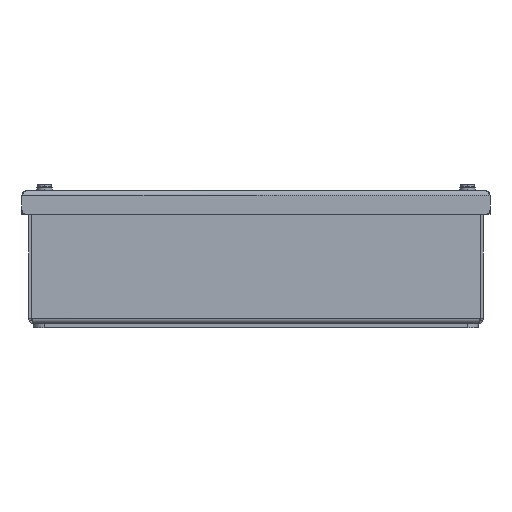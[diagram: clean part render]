
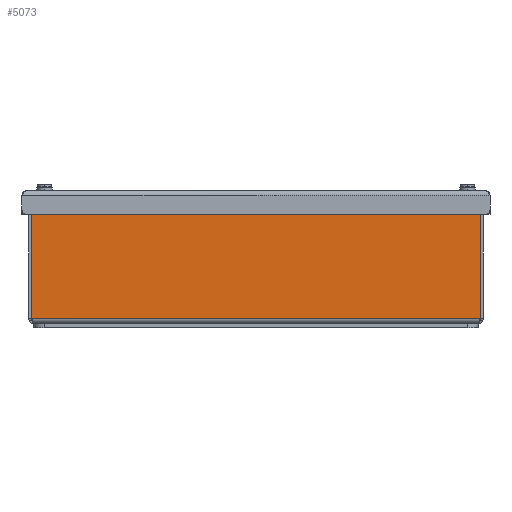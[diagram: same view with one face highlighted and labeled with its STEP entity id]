
A CAD part, left-side view. The second image highlights one B-rep face of the part: STEP entity #5073.
In plain terms, the highlighted planar face has unit normal (-1, 0, 0).
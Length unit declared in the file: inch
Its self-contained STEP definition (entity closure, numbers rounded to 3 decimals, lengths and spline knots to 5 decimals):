
#1255=DIRECTION('',(0.,-1.,0.));
#1256=VECTOR('',#1255,10.62033);
#1257=CARTESIAN_POINT('',(0.,10.68516,0.12));
#1258=LINE('',#1257,#1256);
#1341=CARTESIAN_POINT('',(0.,10.72,0.07744));
#1342=DIRECTION('',(1.,0.,0.));
#1343=DIRECTION('',(0.,-0.54,0.842));
#1344=AXIS2_PLACEMENT_3D('',#1341,#1342,#1343);
#1349=DIRECTION('',(0.,0.,1.));
#1350=VECTOR('',#1349,2.81357);
#1351=CARTESIAN_POINT('',(0.,10.6903,0.12373));
#1352=LINE('',#1351,#1350);
#1356=DIRECTION('',(0.,-1.,0.));
#1357=VECTOR('',#1356,0.6278);
#1358=CARTESIAN_POINT('',(0.,10.6278,2.9998));
#1359=LINE('',#1358,#1357);
#1363=DIRECTION('',(0.,0.,1.));
#1364=VECTOR('',#1363,0.1198);
#1365=CARTESIAN_POINT('',(0.,10.,2.88));
#1366=LINE('',#1365,#1364);
#1370=DIRECTION('',(0.,0.,1.));
#1371=VECTOR('',#1370,0.1198);
#1372=CARTESIAN_POINT('',(0.,0.75,2.88));
#1373=LINE('',#1372,#1371);
#1377=DIRECTION('',(0.,1.,0.));
#1378=VECTOR('',#1377,0.6278);
#1379=CARTESIAN_POINT('',(0.,0.1222,2.9998));
#1380=LINE('',#1379,#1378);
#1384=DIRECTION('',(0.,0.,-1.));
#1385=VECTOR('',#1384,2.81357);
#1386=CARTESIAN_POINT('',(0.,0.0597,2.9373));
#1387=LINE('',#1386,#1385);
#1391=CARTESIAN_POINT('',(0.,0.03,0.07744));
#1392=DIRECTION('',(1.,0.,0.));
#1393=DIRECTION('',(0.,0.633,0.774));
#1394=AXIS2_PLACEMENT_3D('',#1391,#1392,#1393);
#2919=CARTESIAN_POINT('',(0.,10.6278,2.9373));
#2920=DIRECTION('',(-1.,0.,0.));
#2921=DIRECTION('',(0.,0.,1.));
#2922=AXIS2_PLACEMENT_3D('',#2919,#2920,#2921);
#2987=DIRECTION('',(0.,-1.,0.));
#2988=VECTOR('',#2987,9.25);
#2989=CARTESIAN_POINT('',(0.,10.,2.88));
#2990=LINE('',#2989,#2988);
#3153=CARTESIAN_POINT('',(0.,0.1222,2.9373));
#3154=DIRECTION('',(-1.,0.,0.));
#3155=DIRECTION('',(0.,-1.,0.));
#3156=AXIS2_PLACEMENT_3D('',#3153,#3154,#3155);
#3312=CARTESIAN_POINT('',(0.,10.6278,2.9998));
#3314=VERTEX_POINT('',#3312);
#3315=CARTESIAN_POINT('',(0.,10.6903,2.9373));
#3316=VERTEX_POINT('',#3315);
#3320=CARTESIAN_POINT('',(0.,0.0597,2.9373));
#3322=VERTEX_POINT('',#3320);
#3323=CARTESIAN_POINT('',(0.,0.1222,2.9998));
#3324=VERTEX_POINT('',#3323);
#3335=CARTESIAN_POINT('',(0.,0.75,2.9998));
#3336=VERTEX_POINT('',#3335);
#3339=CARTESIAN_POINT('',(0.,10.,2.9998));
#3340=VERTEX_POINT('',#3339);
#3459=CARTESIAN_POINT('',(0.,10.6903,0.12373));
#3461=VERTEX_POINT('',#3459);
#3463=CARTESIAN_POINT('',(0.,0.0597,0.12373));
#3465=VERTEX_POINT('',#3463);
#3512=CARTESIAN_POINT('',(0.,0.06484,0.12));
#3513=VERTEX_POINT('',#3512);
#3514=CARTESIAN_POINT('',(0.,10.68516,0.12));
#3515=VERTEX_POINT('',#3514);
#3627=CARTESIAN_POINT('',(0.,0.75,2.88));
#3628=VERTEX_POINT('',#3627);
#3631=CARTESIAN_POINT('',(0.,10.,2.88));
#3632=VERTEX_POINT('',#3631);
#5044=CARTESIAN_POINT('',(0.,10.75,0.));
#5045=DIRECTION('',(-1.,0.,0.));
#5046=DIRECTION('',(0.,-1.,0.));
#5047=AXIS2_PLACEMENT_3D('',#5044,#5045,#5046);
#5048=PLANE('',#5047);
#5049=ORIENTED_EDGE('',*,*,#5031,.F.);
#5051=ORIENTED_EDGE('',*,*,#5050,.F.);
#5053=ORIENTED_EDGE('',*,*,#5052,.T.);
#5055=ORIENTED_EDGE('',*,*,#5054,.F.);
#5057=ORIENTED_EDGE('',*,*,#5056,.T.);
#5059=ORIENTED_EDGE('',*,*,#5058,.F.);
#5061=ORIENTED_EDGE('',*,*,#5060,.T.);
#5063=ORIENTED_EDGE('',*,*,#5062,.T.);
#5065=ORIENTED_EDGE('',*,*,#5064,.F.);
#5067=ORIENTED_EDGE('',*,*,#5066,.F.);
#5069=ORIENTED_EDGE('',*,*,#5068,.T.);
#5070=ORIENTED_EDGE('',*,*,#4352,.F.);
#5071=EDGE_LOOP('',(#5049,#5051,#5053,#5055,#5057,#5059,#5061,#5063,#5065,#5067,
#5069,#5070));
#5072=FACE_OUTER_BOUND('',#5071,.F.);
#1345=CIRCLE('',#1344,0.055);
#1395=CIRCLE('',#1394,0.055);
#2923=CIRCLE('',#2922,0.0625);
#3157=CIRCLE('',#3156,0.0625);
#4352=EDGE_CURVE('',#3513,#3465,#1395,.T.);
#5031=EDGE_CURVE('',#3515,#3513,#1258,.T.);
#5050=EDGE_CURVE('',#3461,#3515,#1345,.T.);
#5052=EDGE_CURVE('',#3461,#3316,#1352,.T.);
#5054=EDGE_CURVE('',#3314,#3316,#2923,.T.);
#5056=EDGE_CURVE('',#3314,#3340,#1359,.T.);
#5058=EDGE_CURVE('',#3632,#3340,#1366,.T.);
#5060=EDGE_CURVE('',#3632,#3628,#2990,.T.);
#5062=EDGE_CURVE('',#3628,#3336,#1373,.T.);
#5064=EDGE_CURVE('',#3324,#3336,#1380,.T.);
#5066=EDGE_CURVE('',#3322,#3324,#3157,.T.);
#5068=EDGE_CURVE('',#3322,#3465,#1387,.T.);
#5073=ADVANCED_FACE('',(#5072),#5048,.T.);
